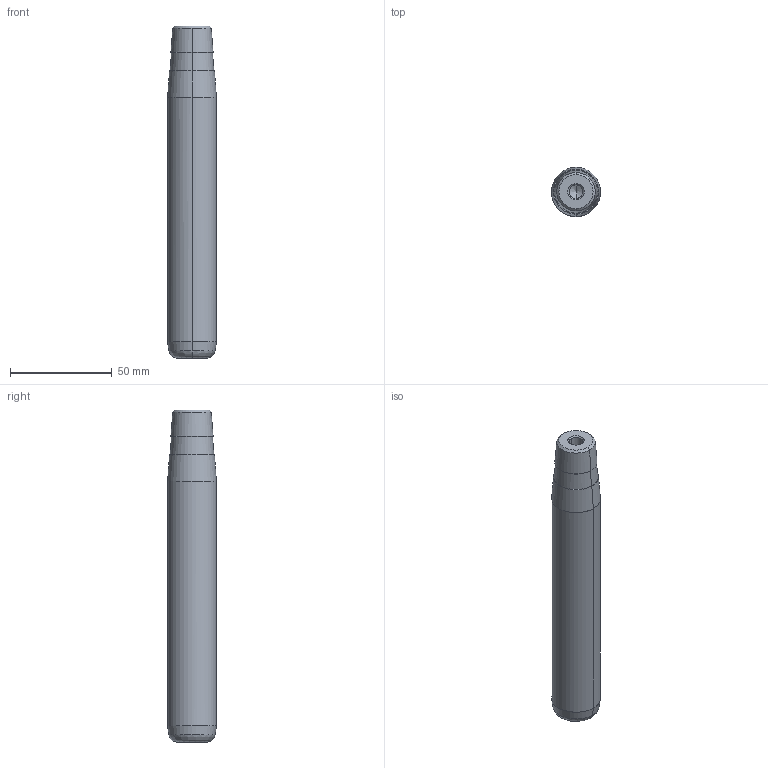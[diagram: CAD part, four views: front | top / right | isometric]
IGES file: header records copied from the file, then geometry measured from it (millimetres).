
Start section: START RECORD GO HERE.
Global section: file name: 722-24x140x163.igs; native system: DASSAULT SYSTEMES CATIA V5 R20 - www.3ds.com; preprocessor: CATIA Version 5 Release 20 ; author: Utente; organization: NB04-ASUS; date: 20210109.093652; units: millimetre
Bounding box: 24 x 24 x 163 mm (x, y, z)
Surface area: 13614.3 mm2 (no closed solid volume)
Topology: 0 solids, 0 shells, 32 faces, 192 edges, 188 vertices
Faces by surface type: revolution 30, plane 2
